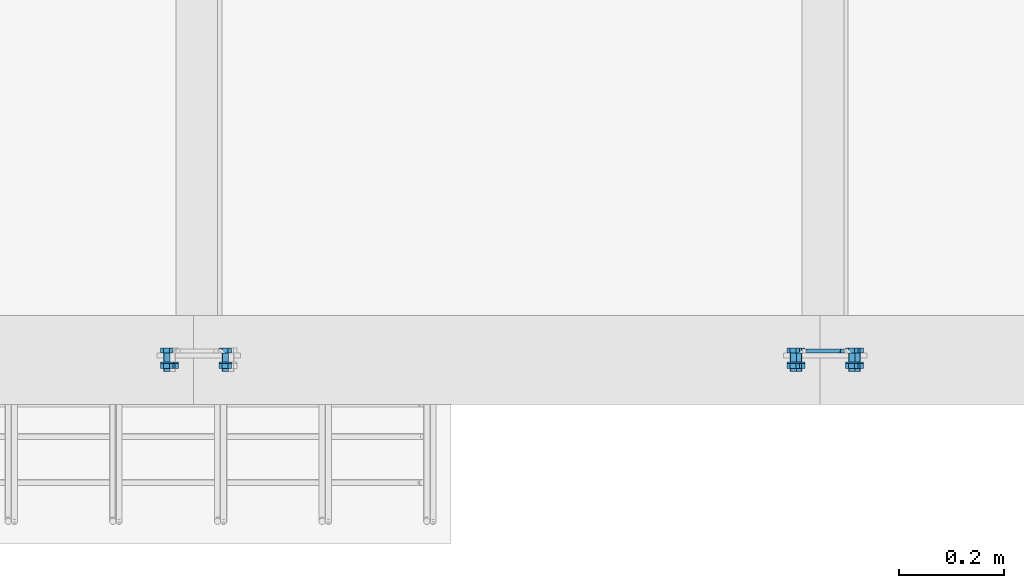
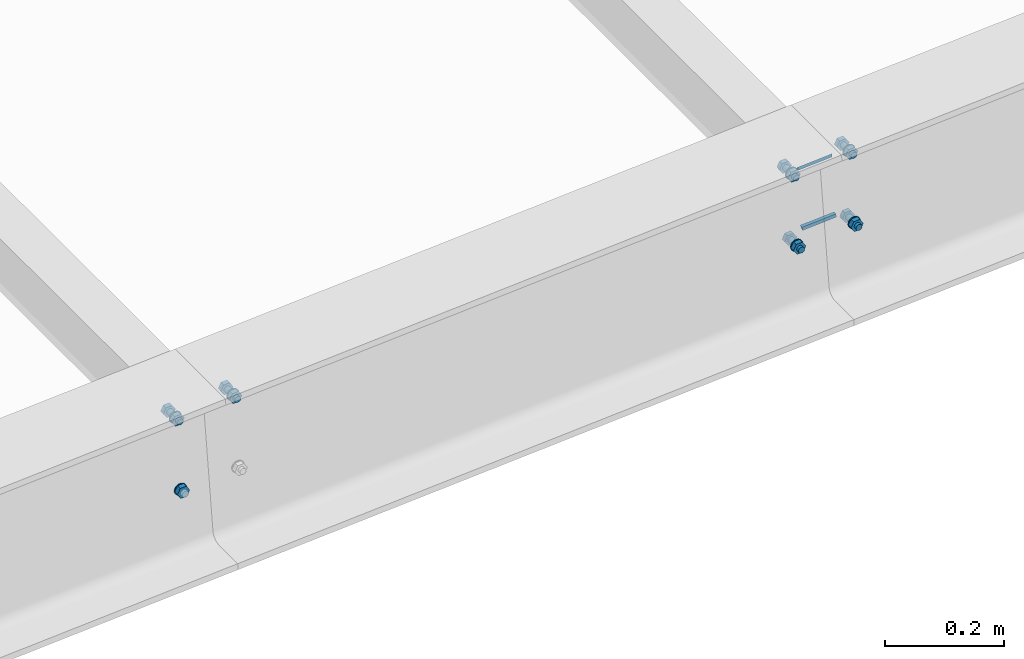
# One storey, part 30 of 72: 26 mechanical fasteners, 4 fasteners.
"""IFC4 building model written with IfcOpenShell, lengths in metres."""

from ifc_helpers import new_model, si_unit, frame, origin_with_axes, place, context, project, spatial, polyline, outline, extrude, type_object, element, save


model = new_model("IFC4")

# Units and contexts
model_context = context("Model", 3, precision=1e-05, world=origin_with_axes())
ifc_project = project(units=[si_unit("LENGTHUNIT", "METRE"), si_unit("AREAUNIT", "SQUARE_METRE"), si_unit("VOLUMEUNIT", "CUBIC_METRE"), si_unit("MASSUNIT", "GRAM", prefix="KILO"), si_unit("TIMEUNIT", "SECOND"), si_unit("PLANEANGLEUNIT", "RADIAN"), si_unit("SOLIDANGLEUNIT", "STERADIAN"), si_unit("THERMODYNAMICTEMPERATUREUNIT", "DEGREE_CELSIUS")], contexts=[model_context])

# Site, building, storey
placement_1 = place(None, origin_with_axes())
site = spatial("IfcSite", under=ifc_project, at=placement_1, Name="Italia", CompositionType="ELEMENT")
building = spatial("IfcBuilding", under=site, at=placement_1, Name="Pensilina", CompositionType="ELEMENT")
storey = spatial("IfcBuildingStorey", under=building, at=placement_1, Name="Storey 0", CompositionType="ELEMENT", Elevation=0.0)

# Mechanical fasteners
mechanical_fastener_type_1 = type_object("IfcMechanicalFastenerType", Name="Collegamento 0301_0302", PredefinedType="BOLT")
placement_2 = place(placement_1, origin_with_axes())
mechanical_fastener_1_placement = place(placement_2, origin_with_axes())
element("IfcMechanicalFastener", 1, at=mechanical_fastener_1_placement, inside=storey, type_object=mechanical_fastener_type_1, Name="Collegamento 0301_0302", NominalDiameter=0.0119999, context=model_context, shape_type="SweptSolid", body=[
    extrude(outline(polyline([(0.0, 0.0, 0.0), (-0.0119727, 0.000808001, 0.0), (-0.0172596, 0.0115805, 0.0), (-0.0105736, 0.0215454, 0.0), (0.00139928, 0.0207376, 0.0), (0.00668597, 0.00996494, 0.0), (0.0, 0.0, 0.0)])), frame((2.16223, -0.0156, 3.68846), z_axis=(0.0, 1.0, 0.0), x_axis=(-1.0, 0.0, 0.0)), (0.0, 0.0, 1.0), 0.0096),
])
mechanical_fastener_type_2 = type_object("IfcMechanicalFastenerType", Name="Collegamento 0301_0302", PredefinedType="BOLT")
mechanical_fastener_2_placement = place(placement_2, origin_with_axes())
element("IfcMechanicalFastener", 2, at=mechanical_fastener_2_placement, inside=storey, type_object=mechanical_fastener_type_2, Name="Collegamento 0301_0302", NominalDiameter=0.024, context=model_context, shape_type="SweptSolid", body=[
    extrude(outline(polyline([(0.0, 0.0, 0.0), (-0.000408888, -0.00310588, 0.0), (-0.00160789, -0.00600004, 0.0), (-0.00351477, -0.00848532, 0.0), (-0.00600004, -0.0103922, 0.0), (-0.00889421, -0.0115912, 0.0), (-0.0120001, -0.0120001, 0.0), (-0.015106, -0.0115912, 0.0), (-0.0180001, -0.0103922, 0.0), (-0.0204854, -0.00848532, 0.0), (-0.0223923, -0.00600004, 0.0), (-0.0235913, -0.00310588, 0.0), (-0.0240002, 0.0, 0.0), (-0.0235913, 0.00310588, 0.0), (-0.0223923, 0.00600004, 0.0), (-0.0204854, 0.00848532, 0.0), (-0.0180001, 0.0103922, 0.0), (-0.015106, 0.0115912, 0.0), (-0.0120001, 0.0120001, 0.0), (-0.00889421, 0.0115912, 0.0), (-0.00600004, 0.0103922, 0.0), (-0.00351477, 0.00848532, 0.0), (-0.00160789, 0.00600004, 0.0), (-0.000408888, 0.00310588, 0.0), (0.0, 0.0, 0.0)])), frame((2.15551, -0.006, 3.69923), z_axis=(0.0, 1.0, 0.0), x_axis=(-1.0, 0.0, 0.0)), (0.0, 0.0, 1.0), 0.002),
])
mechanical_fastener_type_3 = type_object("IfcMechanicalFastenerType", Name="Collegamento 0301_0302", PredefinedType="BOLT")
mechanical_fastener_3_placement = place(placement_2, origin_with_axes())
element("IfcMechanicalFastener", 3, at=mechanical_fastener_3_placement, inside=storey, type_object=mechanical_fastener_type_3, Name="Collegamento 0301_0302", NominalDiameter=0.0119999, context=model_context, shape_type="SweptSolid", body=[
    extrude(outline(polyline([(0.0, 0.0, 0.0), (-0.0119729, 0.000807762, 0.0), (-0.0172596, 0.0115805, 0.0), (-0.0105736, 0.0215454, 0.0), (0.00139904, 0.0207374, 0.0), (0.00668597, 0.00996494, 0.0), (0.0, 0.0, 0.0)])), frame((2.26374, 0.014, 3.84766), z_axis=(0.0, 1.0, 0.0), x_axis=(-1.0, 0.0, 0.0)), (0.0, 0.0, 1.0), 0.0096),
])
mechanical_fastener_type_4 = type_object("IfcMechanicalFastenerType", Name="Collegamento 0301_0302", PredefinedType="BOLT")
mechanical_fastener_4_placement = place(placement_2, origin_with_axes())
element("IfcMechanicalFastener", 4, at=mechanical_fastener_4_placement, inside=storey, type_object=mechanical_fastener_type_4, Name="Collegamento 0301_0302", NominalDiameter=0.012, context=model_context, shape_type="SweptSolid", body=[
    extrude(outline(polyline([(0.0, 0.0, 0.0), (-0.000204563, -0.00155282, 0.0), (-0.000803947, -0.00300002, 0.0), (-0.00175738, -0.00424266, 0.0), (-0.00300002, -0.00519609, 0.0), (-0.00444722, -0.00579548, 0.0), (-0.00600004, -0.00600004, 0.0), (-0.00755286, -0.00579548, 0.0), (-0.00900006, -0.00519609, 0.0), (-0.0102427, -0.00424266, 0.0), (-0.0111961, -0.00300002, 0.0), (-0.0117955, -0.00155282, 0.0), (-0.0120001, 0.0, 0.0), (-0.0117955, 0.00155282, 0.0), (-0.0111961, 0.00300002, 0.0), (-0.0102427, 0.00424266, 0.0), (-0.00900006, 0.00519609, 0.0), (-0.00755286, 0.00579548, 0.0), (-0.00600004, 0.00600004, 0.0), (-0.00444722, 0.00579548, 0.0), (-0.00300002, 0.00519609, 0.0), (-0.00175738, 0.00424266, 0.0), (-0.000803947, 0.00300002, 0.0), (-0.000204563, 0.00155282, 0.0), (0.0, 0.0, 0.0)])), frame((2.26303, -0.022, 3.85843), z_axis=(0.0, 1.0, 0.0), x_axis=(-1.0, 0.0, 0.0)), (0.0, 0.0, 1.0), 0.036),
])
mechanical_fastener_type_5 = type_object("IfcMechanicalFastenerType", Name="Collegamento 0301_0302", PredefinedType="BOLT")
mechanical_fastener_5_placement = place(placement_2, origin_with_axes())
element("IfcMechanicalFastener", 5, at=mechanical_fastener_5_placement, inside=storey, type_object=mechanical_fastener_type_5, Name="Collegamento 0301_0302", NominalDiameter=0.0119999, context=model_context, shape_type="SweptSolid", body=[
    extrude(outline(polyline([(0.0, 0.0, 0.0), (-0.0119729, 0.000807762, 0.0), (-0.0172596, 0.0115805, 0.0), (-0.0105736, 0.0215454, 0.0), (0.00139904, 0.0207374, 0.0), (0.00668597, 0.00996494, 0.0), (0.0, 0.0, 0.0)])), frame((2.26374, -0.0156, 3.84766), z_axis=(0.0, 1.0, 0.0), x_axis=(-1.0, 0.0, 0.0)), (0.0, 0.0, 1.0), 0.0096),
])
mechanical_fastener_type_6 = type_object("IfcMechanicalFastenerType", Name="Collegamento 0301_0302", PredefinedType="BOLT")
mechanical_fastener_6_placement = place(placement_2, origin_with_axes())
element("IfcMechanicalFastener", 6, at=mechanical_fastener_6_placement, inside=storey, type_object=mechanical_fastener_type_6, Name="Collegamento 0301_0302", NominalDiameter=0.024, context=model_context, shape_type="SweptSolid", body=[
    extrude(outline(polyline([(0.0, 0.0, 0.0), (-0.000408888, -0.00310588, 0.0), (-0.00160789, -0.00600004, 0.0), (-0.00351477, -0.00848532, 0.0), (-0.00600004, -0.0103922, 0.0), (-0.00889421, -0.0115912, 0.0), (-0.0120001, -0.0120001, 0.0), (-0.015106, -0.0115912, 0.0), (-0.0180001, -0.0103922, 0.0), (-0.0204854, -0.00848532, 0.0), (-0.0223923, -0.00600004, 0.0), (-0.0235913, -0.00310588, 0.0), (-0.0240002, 0.0, 0.0), (-0.0235913, 0.00310588, 0.0), (-0.0223923, 0.00600004, 0.0), (-0.0204854, 0.00848532, 0.0), (-0.0180001, 0.0103922, 0.0), (-0.015106, 0.0115912, 0.0), (-0.0120001, 0.0120001, 0.0), (-0.00889421, 0.0115912, 0.0), (-0.00600004, 0.0103922, 0.0), (-0.00351477, 0.00848532, 0.0), (-0.00160789, 0.00600004, 0.0), (-0.000408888, 0.00310588, 0.0), (0.0, 0.0, 0.0)])), frame((2.25703, -0.006, 3.85843), z_axis=(0.0, 1.0, 0.0), x_axis=(-1.0, 0.0, 0.0)), (0.0, 0.0, 1.0), 0.002),
])
mechanical_fastener_type_7 = type_object("IfcMechanicalFastenerType", Name="Collegamento 0301_0302", PredefinedType="BOLT")
mechanical_fastener_7_placement = place(placement_2, origin_with_axes())
element("IfcMechanicalFastener", 7, at=mechanical_fastener_7_placement, inside=storey, type_object=mechanical_fastener_type_7, Name="Collegamento 0301_0302", NominalDiameter=0.0119999, context=model_context, shape_type="SweptSolid", body=[
    extrude(outline(polyline([(0.0, 0.0, 0.0), (-0.0119727, 0.000808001, 0.0), (-0.0172596, 0.0115805, 0.0), (-0.0105736, 0.0215454, 0.0), (0.00139928, 0.0207376, 0.0), (0.00668597, 0.00996494, 0.0), (0.0, 0.0, 0.0)])), frame((2.15199, 0.014, 3.84012), z_axis=(0.0, 1.0, 0.0), x_axis=(-1.0, 0.0, 0.0)), (0.0, 0.0, 1.0), 0.0096),
])
mechanical_fastener_type_8 = type_object("IfcMechanicalFastenerType", Name="Collegamento 0301_0302", PredefinedType="BOLT")
mechanical_fastener_8_placement = place(placement_2, origin_with_axes())
element("IfcMechanicalFastener", 8, at=mechanical_fastener_8_placement, inside=storey, type_object=mechanical_fastener_type_8, Name="Collegamento 0301_0302", NominalDiameter=0.012, context=model_context, shape_type="SweptSolid", body=[
    extrude(outline(polyline([(0.0, 0.0, 0.0), (-0.000204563, -0.00155282, 0.0), (-0.000803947, -0.00300002, 0.0), (-0.00175738, -0.00424266, 0.0), (-0.00300002, -0.00519609, 0.0), (-0.00444722, -0.00579548, 0.0), (-0.00600004, -0.00600004, 0.0), (-0.00755286, -0.00579548, 0.0), (-0.00900006, -0.00519609, 0.0), (-0.0102427, -0.00424266, 0.0), (-0.0111961, -0.00300002, 0.0), (-0.0117955, -0.00155282, 0.0), (-0.0120001, 0.0, 0.0), (-0.0117955, 0.00155282, 0.0), (-0.0111961, 0.00300002, 0.0), (-0.0102427, 0.00424266, 0.0), (-0.00900006, 0.00519609, 0.0), (-0.00755286, 0.00579548, 0.0), (-0.00600004, 0.00600004, 0.0), (-0.00444722, 0.00579548, 0.0), (-0.00300002, 0.00519609, 0.0), (-0.00175738, 0.00424266, 0.0), (-0.000803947, 0.00300002, 0.0), (-0.000204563, 0.00155282, 0.0), (0.0, 0.0, 0.0)])), frame((2.15128, -0.022, 3.85089), z_axis=(0.0, 1.0, 0.0), x_axis=(-1.0, 0.0, 0.0)), (0.0, 0.0, 1.0), 0.036),
])
mechanical_fastener_type_9 = type_object("IfcMechanicalFastenerType", Name="Collegamento 0301_0302", PredefinedType="BOLT")
mechanical_fastener_9_placement = place(placement_2, origin_with_axes())
element("IfcMechanicalFastener", 9, at=mechanical_fastener_9_placement, inside=storey, type_object=mechanical_fastener_type_9, Name="Collegamento 0301_0302", NominalDiameter=0.0119999, context=model_context, shape_type="SweptSolid", body=[
    extrude(outline(polyline([(0.0, 0.0, 0.0), (-0.0119727, 0.000808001, 0.0), (-0.0172596, 0.0115805, 0.0), (-0.0105736, 0.0215454, 0.0), (0.00139928, 0.0207376, 0.0), (0.00668597, 0.00996494, 0.0), (0.0, 0.0, 0.0)])), frame((2.15199, -0.0156, 3.84012), z_axis=(0.0, 1.0, 0.0), x_axis=(-1.0, 0.0, 0.0)), (0.0, 0.0, 1.0), 0.0096),
])
mechanical_fastener_type_10 = type_object("IfcMechanicalFastenerType", Name="Collegamento 0301_0302", PredefinedType="BOLT")
mechanical_fastener_10_placement = place(placement_2, origin_with_axes())
element("IfcMechanicalFastener", 10, at=mechanical_fastener_10_placement, inside=storey, type_object=mechanical_fastener_type_10, Name="Collegamento 0301_0302", NominalDiameter=0.024, context=model_context, shape_type="SweptSolid", body=[
    extrude(outline(polyline([(0.0, 0.0, 0.0), (-0.000408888, -0.00310588, 0.0), (-0.00160789, -0.00600004, 0.0), (-0.00351477, -0.00848532, 0.0), (-0.00600004, -0.0103922, 0.0), (-0.00889421, -0.0115912, 0.0), (-0.0120001, -0.0120001, 0.0), (-0.015106, -0.0115912, 0.0), (-0.0180001, -0.0103922, 0.0), (-0.0204854, -0.00848532, 0.0), (-0.0223923, -0.00600004, 0.0), (-0.0235913, -0.00310588, 0.0), (-0.0240002, 0.0, 0.0), (-0.0235913, 0.00310588, 0.0), (-0.0223923, 0.00600004, 0.0), (-0.0204854, 0.00848532, 0.0), (-0.0180001, 0.0103922, 0.0), (-0.015106, 0.0115912, 0.0), (-0.0120001, 0.0120001, 0.0), (-0.00889421, 0.0115912, 0.0), (-0.00600004, 0.0103922, 0.0), (-0.00351477, 0.00848532, 0.0), (-0.00160789, 0.00600004, 0.0), (-0.000408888, 0.00310588, 0.0), (0.0, 0.0, 0.0)])), frame((2.14528, -0.006, 3.85089), z_axis=(0.0, 1.0, 0.0), x_axis=(-1.0, 0.0, 0.0)), (0.0, 0.0, 1.0), 0.002),
])

# Fasteners
fastener_type_1 = type_object("IfcFastenerType", Name="Collegamento 0401_0402", PredefinedType="WELD")
fastener_1_placement = place(placement_2, origin_with_axes())
element("IfcFastener", 11, at=fastener_1_placement, inside=storey, type_object=fastener_type_1, Name="Collegamento 0401_0402", context=model_context, shape_type="SweptSolid", body=[
    extrude(outline(polyline([(0.0, 0.0, 0.0), (0.00717336, -0.00695801, 0.0), (0.0, -0.00695801, 0.0), (0.0, 0.0, 0.0)])), frame((3.37792, 0.01395, 3.92561), z_axis=(0.997731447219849, 0.0, 0.067320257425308), x_axis=(0.0, 1.0, 0.0)), (0.0, 0.0, 1.0), 0.0660996),
])
fastener_type_2 = type_object("IfcFastenerType", Name="Collegamento 0401_0402", PredefinedType="WELD")
fastener_2_placement = place(placement_2, origin_with_axes())
element("IfcFastener", 12, at=fastener_2_placement, inside=storey, type_object=fastener_type_2, Name="Collegamento 0401_0402", context=model_context, shape_type="SweptSolid", body=[
    extrude(outline(polyline([(0.0, 0.0, 0.0), (-0.00717336, 0.00695825, 0.0), (0.0, 0.00695825, 0.0), (0.0, 0.0, 0.0)])), frame((3.45288, 0.01395, 3.79654), z_axis=(-0.997731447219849, 0.0, -0.067320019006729), x_axis=(0.0, -1.0, 0.0)), (0.0, 0.0, 1.0), 0.0660999),
])
fastener_type_3 = type_object("IfcFastenerType", Name="Collegamento 0401_0402", PredefinedType="WELD")
fastener_3_placement = place(placement_2, origin_with_axes())
element("IfcFastener", 13, at=fastener_3_placement, inside=storey, type_object=fastener_type_3, Name="Collegamento 0401_0402", context=model_context, shape_type="SweptSolid", body=[
    extrude(outline(polyline([(0.0, 0.0, 0.0), (0.00717336, -0.00695801, 0.0), (0.0, -0.00695801, 0.0), (0.0, 0.0, 0.0)])), frame((3.37792, 0.01395, 3.92561), z_axis=(0.997731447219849, 0.0, 0.067320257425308), x_axis=(0.0, 1.0, 0.0)), (0.0, 0.0, 1.0), 0.0660996),
])
fastener_type_4 = type_object("IfcFastenerType", Name="Collegamento 0401_0402", PredefinedType="WELD")
fastener_4_placement = place(placement_2, origin_with_axes())
element("IfcFastener", 14, at=fastener_4_placement, inside=storey, type_object=fastener_type_4, Name="Collegamento 0401_0402", context=model_context, shape_type="SweptSolid", body=[
    extrude(outline(polyline([(0.0, 0.0, 0.0), (-0.00717336, 0.00695825, 0.0), (0.0, 0.00695825, 0.0), (0.0, 0.0, 0.0)])), frame((3.45288, 0.01395, 3.79654), z_axis=(-0.997731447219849, 0.0, -0.067320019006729), x_axis=(0.0, -1.0, 0.0)), (0.0, 0.0, 1.0), 0.0660999),
])

# Mechanical fasteners
mechanical_fastener_type_11 = type_object("IfcMechanicalFastenerType", Name="Collegamento 0401_0402", PredefinedType="BOLT")
mechanical_fastener_11_placement = place(placement_2, origin_with_axes())
element("IfcMechanicalFastener", 15, at=mechanical_fastener_11_placement, inside=storey, type_object=mechanical_fastener_type_11, Name="Collegamento 0401_0402", NominalDiameter=0.0119998, context=model_context, shape_type="SweptSolid", body=[
    extrude(outline(polyline([(0.0, 0.0, 0.0), (-0.0119727, 0.000807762, 0.0), (-0.0172596, 0.0115805, 0.0), (-0.0105736, 0.0215454, 0.0), (0.00139928, 0.0207374, 0.0), (0.00668597, 0.00996494, 0.0), (0.0, 0.0, 0.0)])), frame((3.4711, 0.014, 3.77825), z_axis=(0.0, 1.0, 0.0), x_axis=(-1.0, 0.0, 0.0)), (0.0, 0.0, 1.0), 0.0096),
])
mechanical_fastener_type_12 = type_object("IfcMechanicalFastenerType", Name="Collegamento 0401_0402", PredefinedType="BOLT")
mechanical_fastener_12_placement = place(placement_2, origin_with_axes())
element("IfcMechanicalFastener", 16, at=mechanical_fastener_12_placement, inside=storey, type_object=mechanical_fastener_type_12, Name="Collegamento 0401_0402", NominalDiameter=0.012, context=model_context, shape_type="SweptSolid", body=[
    extrude(outline(polyline([(0.0, 0.0, 0.0), (-0.000204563, -0.00155282, 0.0), (-0.000803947, -0.00300002, 0.0), (-0.00175738, -0.00424266, 0.0), (-0.00300002, -0.00519609, 0.0), (-0.00444722, -0.00579548, 0.0), (-0.00600004, -0.00600004, 0.0), (-0.00755286, -0.00579548, 0.0), (-0.00900006, -0.00519609, 0.0), (-0.0102427, -0.00424266, 0.0), (-0.0111961, -0.00300002, 0.0), (-0.0117955, -0.00155282, 0.0), (-0.0120001, 0.0, 0.0), (-0.0117955, 0.00155282, 0.0), (-0.0111961, 0.00300002, 0.0), (-0.0102427, 0.00424266, 0.0), (-0.00900006, 0.00519609, 0.0), (-0.00755286, 0.00579548, 0.0), (-0.00600004, 0.00600004, 0.0), (-0.00444722, 0.00579548, 0.0), (-0.00300002, 0.00519609, 0.0), (-0.00175738, 0.00424266, 0.0), (-0.000803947, 0.00300002, 0.0), (-0.000204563, 0.00155282, 0.0), (0.0, 0.0, 0.0)])), frame((3.47039, -0.022, 3.78902), z_axis=(0.0, 1.0, 0.0), x_axis=(-1.0, 0.0, 0.0)), (0.0, 0.0, 1.0), 0.036),
])
mechanical_fastener_type_13 = type_object("IfcMechanicalFastenerType", Name="Collegamento 0401_0402", PredefinedType="BOLT")
mechanical_fastener_13_placement = place(placement_2, origin_with_axes())
element("IfcMechanicalFastener", 17, at=mechanical_fastener_13_placement, inside=storey, type_object=mechanical_fastener_type_13, Name="Collegamento 0401_0402", NominalDiameter=0.0119998, context=model_context, shape_type="SweptSolid", body=[
    extrude(outline(polyline([(0.0, 0.0, 0.0), (-0.0119727, 0.000807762, 0.0), (-0.0172596, 0.0115805, 0.0), (-0.0105736, 0.0215454, 0.0), (0.00139928, 0.0207374, 0.0), (0.00668597, 0.00996494, 0.0), (0.0, 0.0, 0.0)])), frame((3.4711, -0.0156, 3.77825), z_axis=(0.0, 1.0, 0.0), x_axis=(-1.0, 0.0, 0.0)), (0.0, 0.0, 1.0), 0.0096),
])
mechanical_fastener_type_14 = type_object("IfcMechanicalFastenerType", Name="Collegamento 0401_0402", PredefinedType="BOLT")
mechanical_fastener_14_placement = place(placement_2, origin_with_axes())
element("IfcMechanicalFastener", 18, at=mechanical_fastener_14_placement, inside=storey, type_object=mechanical_fastener_type_14, Name="Collegamento 0401_0402", NominalDiameter=0.024, context=model_context, shape_type="SweptSolid", body=[
    extrude(outline(polyline([(0.0, 0.0, 0.0), (-0.000408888, -0.00310588, 0.0), (-0.00160789, -0.00600004, 0.0), (-0.00351477, -0.00848532, 0.0), (-0.00600004, -0.0103922, 0.0), (-0.00889421, -0.0115912, 0.0), (-0.0120001, -0.0120001, 0.0), (-0.015106, -0.0115912, 0.0), (-0.0180001, -0.0103922, 0.0), (-0.0204854, -0.00848532, 0.0), (-0.0223923, -0.00600004, 0.0), (-0.0235913, -0.00310588, 0.0), (-0.0240002, 0.0, 0.0), (-0.0235913, 0.00310588, 0.0), (-0.0223923, 0.00600004, 0.0), (-0.0204854, 0.00848532, 0.0), (-0.0180001, 0.0103922, 0.0), (-0.015106, 0.0115912, 0.0), (-0.0120001, 0.0120001, 0.0), (-0.00889421, 0.0115912, 0.0), (-0.00600004, 0.0103922, 0.0), (-0.00351477, 0.00848532, 0.0), (-0.00160789, 0.00600004, 0.0), (-0.000408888, 0.00310588, 0.0), (0.0, 0.0, 0.0)])), frame((3.46439, -0.006, 3.78902), z_axis=(0.0, 1.0, 0.0), x_axis=(-1.0, 0.0, 0.0)), (0.0, 0.0, 1.0), 0.002),
])
mechanical_fastener_type_15 = type_object("IfcMechanicalFastenerType", Name="Collegamento 0401_0402", PredefinedType="BOLT")
mechanical_fastener_15_placement = place(placement_2, origin_with_axes())
element("IfcMechanicalFastener", 19, at=mechanical_fastener_15_placement, inside=storey, type_object=mechanical_fastener_type_15, Name="Collegamento 0401_0402", NominalDiameter=0.0119998, context=model_context, shape_type="SweptSolid", body=[
    extrude(outline(polyline([(0.0, 0.0, 0.0), (-0.0119729, 0.000808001, 0.0), (-0.0172596, 0.0115805, 0.0), (-0.0105736, 0.0215454, 0.0), (0.00139904, 0.0207376, 0.0), (0.00668597, 0.00996494, 0.0), (0.0, 0.0, 0.0)])), frame((3.35936, 0.014, 3.77071), z_axis=(0.0, 1.0, 0.0), x_axis=(-1.0, 0.0, 0.0)), (0.0, 0.0, 1.0), 0.0096),
])
mechanical_fastener_type_16 = type_object("IfcMechanicalFastenerType", Name="Collegamento 0401_0402", PredefinedType="BOLT")
mechanical_fastener_16_placement = place(placement_2, origin_with_axes())
element("IfcMechanicalFastener", 20, at=mechanical_fastener_16_placement, inside=storey, type_object=mechanical_fastener_type_16, Name="Collegamento 0401_0402", NominalDiameter=0.012, context=model_context, shape_type="SweptSolid", body=[
    extrude(outline(polyline([(0.0, 0.0, 0.0), (-0.000204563, -0.00155282, 0.0), (-0.000803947, -0.00300002, 0.0), (-0.00175738, -0.00424266, 0.0), (-0.00300002, -0.00519609, 0.0), (-0.00444722, -0.00579548, 0.0), (-0.00600004, -0.00600004, 0.0), (-0.00755286, -0.00579548, 0.0), (-0.00900006, -0.00519609, 0.0), (-0.0102427, -0.00424266, 0.0), (-0.0111961, -0.00300002, 0.0), (-0.0117955, -0.00155282, 0.0), (-0.0120001, 0.0, 0.0), (-0.0117955, 0.00155282, 0.0), (-0.0111961, 0.00300002, 0.0), (-0.0102427, 0.00424266, 0.0), (-0.00900006, 0.00519609, 0.0), (-0.00755286, 0.00579548, 0.0), (-0.00600004, 0.00600004, 0.0), (-0.00444722, 0.00579548, 0.0), (-0.00300002, 0.00519609, 0.0), (-0.00175738, 0.00424266, 0.0), (-0.000803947, 0.00300002, 0.0), (-0.000204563, 0.00155282, 0.0), (0.0, 0.0, 0.0)])), frame((3.35864, -0.022, 3.78148), z_axis=(0.0, 1.0, 0.0), x_axis=(-1.0, 0.0, 0.0)), (0.0, 0.0, 1.0), 0.036),
])
mechanical_fastener_type_17 = type_object("IfcMechanicalFastenerType", Name="Collegamento 0401_0402", PredefinedType="BOLT")
mechanical_fastener_17_placement = place(placement_2, origin_with_axes())
element("IfcMechanicalFastener", 21, at=mechanical_fastener_17_placement, inside=storey, type_object=mechanical_fastener_type_17, Name="Collegamento 0401_0402", NominalDiameter=0.0119998, context=model_context, shape_type="SweptSolid", body=[
    extrude(outline(polyline([(0.0, 0.0, 0.0), (-0.0119729, 0.000808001, 0.0), (-0.0172596, 0.0115805, 0.0), (-0.0105736, 0.0215454, 0.0), (0.00139904, 0.0207376, 0.0), (0.00668597, 0.00996494, 0.0), (0.0, 0.0, 0.0)])), frame((3.35936, -0.0156, 3.77071), z_axis=(0.0, 1.0, 0.0), x_axis=(-1.0, 0.0, 0.0)), (0.0, 0.0, 1.0), 0.0096),
])
mechanical_fastener_type_18 = type_object("IfcMechanicalFastenerType", Name="Collegamento 0401_0402", PredefinedType="BOLT")
mechanical_fastener_18_placement = place(placement_2, origin_with_axes())
element("IfcMechanicalFastener", 22, at=mechanical_fastener_18_placement, inside=storey, type_object=mechanical_fastener_type_18, Name="Collegamento 0401_0402", NominalDiameter=0.024, context=model_context, shape_type="SweptSolid", body=[
    extrude(outline(polyline([(0.0, 0.0, 0.0), (-0.000408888, -0.00310588, 0.0), (-0.00160789, -0.00600004, 0.0), (-0.00351477, -0.00848532, 0.0), (-0.00600004, -0.0103922, 0.0), (-0.00889421, -0.0115912, 0.0), (-0.0120001, -0.0120001, 0.0), (-0.015106, -0.0115912, 0.0), (-0.0180001, -0.0103922, 0.0), (-0.0204854, -0.00848532, 0.0), (-0.0223923, -0.00600004, 0.0), (-0.0235913, -0.00310588, 0.0), (-0.0240002, 0.0, 0.0), (-0.0235913, 0.00310588, 0.0), (-0.0223923, 0.00600004, 0.0), (-0.0204854, 0.00848532, 0.0), (-0.0180001, 0.0103922, 0.0), (-0.015106, 0.0115912, 0.0), (-0.0120001, 0.0120001, 0.0), (-0.00889421, 0.0115912, 0.0), (-0.00600004, 0.0103922, 0.0), (-0.00351477, 0.00848532, 0.0), (-0.00160789, 0.00600004, 0.0), (-0.000408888, 0.00310588, 0.0), (0.0, 0.0, 0.0)])), frame((3.35264, -0.006, 3.78148), z_axis=(0.0, 1.0, 0.0), x_axis=(-1.0, 0.0, 0.0)), (0.0, 0.0, 1.0), 0.002),
])
mechanical_fastener_type_19 = type_object("IfcMechanicalFastenerType", Name="Collegamento 0401_0402", PredefinedType="BOLT")
mechanical_fastener_19_placement = place(placement_2, origin_with_axes())
element("IfcMechanicalFastener", 23, at=mechanical_fastener_19_placement, inside=storey, type_object=mechanical_fastener_type_19, Name="Collegamento 0401_0402", NominalDiameter=0.0119998, context=model_context, shape_type="SweptSolid", body=[
    extrude(outline(polyline([(0.0, 0.0, 0.0), (-0.0119727, 0.000808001, 0.0), (-0.0172596, 0.0115805, 0.0), (-0.0105736, 0.0215454, 0.0), (0.00139928, 0.0207374, 0.0), (0.00668597, 0.00996494, 0.0), (0.0, 0.0, 0.0)])), frame((3.46087, 0.014, 3.9299), z_axis=(0.0, 1.0, 0.0), x_axis=(-1.0, 0.0, 0.0)), (0.0, 0.0, 1.0), 0.0096),
])
mechanical_fastener_type_20 = type_object("IfcMechanicalFastenerType", Name="Collegamento 0401_0402", PredefinedType="BOLT")
mechanical_fastener_20_placement = place(placement_2, origin_with_axes())
element("IfcMechanicalFastener", 24, at=mechanical_fastener_20_placement, inside=storey, type_object=mechanical_fastener_type_20, Name="Collegamento 0401_0402", NominalDiameter=0.012, context=model_context, shape_type="SweptSolid", body=[
    extrude(outline(polyline([(0.0, 0.0, 0.0), (-0.000204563, -0.00155282, 0.0), (-0.000803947, -0.00300002, 0.0), (-0.00175738, -0.00424266, 0.0), (-0.00300002, -0.00519609, 0.0), (-0.00444722, -0.00579548, 0.0), (-0.00600004, -0.00600004, 0.0), (-0.00755286, -0.00579548, 0.0), (-0.00900006, -0.00519609, 0.0), (-0.0102427, -0.00424266, 0.0), (-0.0111961, -0.00300002, 0.0), (-0.0117955, -0.00155282, 0.0), (-0.0120001, 0.0, 0.0), (-0.0117955, 0.00155282, 0.0), (-0.0111961, 0.00300002, 0.0), (-0.0102427, 0.00424266, 0.0), (-0.00900006, 0.00519609, 0.0), (-0.00755286, 0.00579548, 0.0), (-0.00600004, 0.00600004, 0.0), (-0.00444722, 0.00579548, 0.0), (-0.00300002, 0.00519609, 0.0), (-0.00175738, 0.00424266, 0.0), (-0.000803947, 0.00300002, 0.0), (-0.000204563, 0.00155282, 0.0), (0.0, 0.0, 0.0)])), frame((3.46016, -0.022, 3.94067), z_axis=(0.0, 1.0, 0.0), x_axis=(-1.0, 0.0, 0.0)), (0.0, 0.0, 1.0), 0.036),
])
mechanical_fastener_type_21 = type_object("IfcMechanicalFastenerType", Name="Collegamento 0401_0402", PredefinedType="BOLT")
mechanical_fastener_21_placement = place(placement_2, origin_with_axes())
element("IfcMechanicalFastener", 25, at=mechanical_fastener_21_placement, inside=storey, type_object=mechanical_fastener_type_21, Name="Collegamento 0401_0402", NominalDiameter=0.0119998, context=model_context, shape_type="SweptSolid", body=[
    extrude(outline(polyline([(0.0, 0.0, 0.0), (-0.0119727, 0.000808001, 0.0), (-0.0172596, 0.0115805, 0.0), (-0.0105736, 0.0215454, 0.0), (0.00139928, 0.0207374, 0.0), (0.00668597, 0.00996494, 0.0), (0.0, 0.0, 0.0)])), frame((3.46087, -0.0156, 3.9299), z_axis=(0.0, 1.0, 0.0), x_axis=(-1.0, 0.0, 0.0)), (0.0, 0.0, 1.0), 0.0096),
])
mechanical_fastener_type_22 = type_object("IfcMechanicalFastenerType", Name="Collegamento 0401_0402", PredefinedType="BOLT")
mechanical_fastener_22_placement = place(placement_2, origin_with_axes())
element("IfcMechanicalFastener", 26, at=mechanical_fastener_22_placement, inside=storey, type_object=mechanical_fastener_type_22, Name="Collegamento 0401_0402", NominalDiameter=0.024, context=model_context, shape_type="SweptSolid", body=[
    extrude(outline(polyline([(0.0, 0.0, 0.0), (-0.000408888, -0.00310588, 0.0), (-0.00160789, -0.00600004, 0.0), (-0.00351477, -0.00848532, 0.0), (-0.00600004, -0.0103922, 0.0), (-0.00889421, -0.0115912, 0.0), (-0.0120001, -0.0120001, 0.0), (-0.015106, -0.0115912, 0.0), (-0.0180001, -0.0103922, 0.0), (-0.0204854, -0.00848532, 0.0), (-0.0223923, -0.00600004, 0.0), (-0.0235913, -0.00310588, 0.0), (-0.0240002, 0.0, 0.0), (-0.0235913, 0.00310588, 0.0), (-0.0223923, 0.00600004, 0.0), (-0.0204854, 0.00848532, 0.0), (-0.0180001, 0.0103922, 0.0), (-0.015106, 0.0115912, 0.0), (-0.0120001, 0.0120001, 0.0), (-0.00889421, 0.0115912, 0.0), (-0.00600004, 0.0103922, 0.0), (-0.00351477, 0.00848532, 0.0), (-0.00160789, 0.00600004, 0.0), (-0.000408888, 0.00310588, 0.0), (0.0, 0.0, 0.0)])), frame((3.45416, -0.006, 3.94067), z_axis=(0.0, 1.0, 0.0), x_axis=(-1.0, 0.0, 0.0)), (0.0, 0.0, 1.0), 0.002),
])
mechanical_fastener_type_23 = type_object("IfcMechanicalFastenerType", Name="Collegamento 0401_0402", PredefinedType="BOLT")
mechanical_fastener_23_placement = place(placement_2, origin_with_axes())
element("IfcMechanicalFastener", 27, at=mechanical_fastener_23_placement, inside=storey, type_object=mechanical_fastener_type_23, Name="Collegamento 0401_0402", NominalDiameter=0.0119998, context=model_context, shape_type="SweptSolid", body=[
    extrude(outline(polyline([(0.0, 0.0, 0.0), (-0.0119729, 0.000808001, 0.0), (-0.0172596, 0.0115805, 0.0), (-0.0105736, 0.0215454, 0.0), (0.00139904, 0.0207376, 0.0), (0.00668597, 0.00996494, 0.0), (0.0, 0.0, 0.0)])), frame((3.34912, 0.014, 3.92236), z_axis=(0.0, 1.0, 0.0), x_axis=(-1.0, 0.0, 0.0)), (0.0, 0.0, 1.0), 0.0096),
])
mechanical_fastener_type_24 = type_object("IfcMechanicalFastenerType", Name="Collegamento 0401_0402", PredefinedType="BOLT")
mechanical_fastener_24_placement = place(placement_2, origin_with_axes())
element("IfcMechanicalFastener", 28, at=mechanical_fastener_24_placement, inside=storey, type_object=mechanical_fastener_type_24, Name="Collegamento 0401_0402", NominalDiameter=0.012, context=model_context, shape_type="SweptSolid", body=[
    extrude(outline(polyline([(0.0, 0.0, 0.0), (-0.000204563, -0.00155282, 0.0), (-0.000803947, -0.00300002, 0.0), (-0.00175738, -0.00424266, 0.0), (-0.00300002, -0.00519609, 0.0), (-0.00444722, -0.00579548, 0.0), (-0.00600004, -0.00600004, 0.0), (-0.00755286, -0.00579548, 0.0), (-0.00900006, -0.00519609, 0.0), (-0.0102427, -0.00424266, 0.0), (-0.0111961, -0.00300002, 0.0), (-0.0117955, -0.00155282, 0.0), (-0.0120001, 0.0, 0.0), (-0.0117955, 0.00155282, 0.0), (-0.0111961, 0.00300002, 0.0), (-0.0102427, 0.00424266, 0.0), (-0.00900006, 0.00519609, 0.0), (-0.00755286, 0.00579548, 0.0), (-0.00600004, 0.00600004, 0.0), (-0.00444722, 0.00579548, 0.0), (-0.00300002, 0.00519609, 0.0), (-0.00175738, 0.00424266, 0.0), (-0.000803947, 0.00300002, 0.0), (-0.000204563, 0.00155282, 0.0), (0.0, 0.0, 0.0)])), frame((3.34841, -0.022, 3.93313), z_axis=(0.0, 1.0, 0.0), x_axis=(-1.0, 0.0, 0.0)), (0.0, 0.0, 1.0), 0.036),
])
mechanical_fastener_type_25 = type_object("IfcMechanicalFastenerType", Name="Collegamento 0401_0402", PredefinedType="BOLT")
mechanical_fastener_25_placement = place(placement_2, origin_with_axes())
element("IfcMechanicalFastener", 29, at=mechanical_fastener_25_placement, inside=storey, type_object=mechanical_fastener_type_25, Name="Collegamento 0401_0402", NominalDiameter=0.0119998, context=model_context, shape_type="SweptSolid", body=[
    extrude(outline(polyline([(0.0, 0.0, 0.0), (-0.0119729, 0.000808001, 0.0), (-0.0172596, 0.0115805, 0.0), (-0.0105736, 0.0215454, 0.0), (0.00139904, 0.0207376, 0.0), (0.00668597, 0.00996494, 0.0), (0.0, 0.0, 0.0)])), frame((3.34912, -0.0156, 3.92236), z_axis=(0.0, 1.0, 0.0), x_axis=(-1.0, 0.0, 0.0)), (0.0, 0.0, 1.0), 0.0096),
])
mechanical_fastener_type_26 = type_object("IfcMechanicalFastenerType", Name="Collegamento 0401_0402", PredefinedType="BOLT")
mechanical_fastener_26_placement = place(placement_2, origin_with_axes())
element("IfcMechanicalFastener", 30, at=mechanical_fastener_26_placement, inside=storey, type_object=mechanical_fastener_type_26, Name="Collegamento 0401_0402", NominalDiameter=0.024, context=model_context, shape_type="SweptSolid", body=[
    extrude(outline(polyline([(0.0, 0.0, 0.0), (-0.000408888, -0.00310588, 0.0), (-0.00160789, -0.00600004, 0.0), (-0.00351477, -0.00848532, 0.0), (-0.00600004, -0.0103922, 0.0), (-0.00889421, -0.0115912, 0.0), (-0.0120001, -0.0120001, 0.0), (-0.015106, -0.0115912, 0.0), (-0.0180001, -0.0103922, 0.0), (-0.0204854, -0.00848532, 0.0), (-0.0223923, -0.00600004, 0.0), (-0.0235913, -0.00310588, 0.0), (-0.0240002, 0.0, 0.0), (-0.0235913, 0.00310588, 0.0), (-0.0223923, 0.00600004, 0.0), (-0.0204854, 0.00848532, 0.0), (-0.0180001, 0.0103922, 0.0), (-0.015106, 0.0115912, 0.0), (-0.0120001, 0.0120001, 0.0), (-0.00889421, 0.0115912, 0.0), (-0.00600004, 0.0103922, 0.0), (-0.00351477, 0.00848532, 0.0), (-0.00160789, 0.00600004, 0.0), (-0.000408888, 0.00310588, 0.0), (0.0, 0.0, 0.0)])), frame((3.34241, -0.006, 3.93313), z_axis=(0.0, 1.0, 0.0), x_axis=(-1.0, 0.0, 0.0)), (0.0, 0.0, 1.0), 0.002),
])

save(model, "model.ifc")
